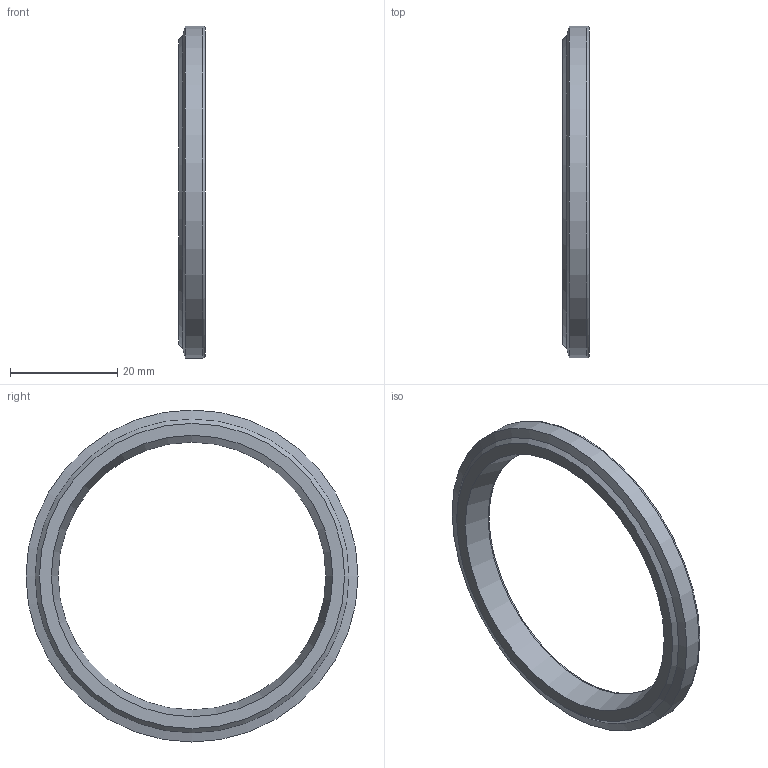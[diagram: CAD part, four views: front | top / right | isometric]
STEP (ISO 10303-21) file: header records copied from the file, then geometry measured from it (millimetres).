
FILE_DESCRIPTION(('STEP AP203'),'1');
FILE_NAME('D:/Desktop/BOSCH CAD/CBX/R133185010.step','2022-02-17T07:15:35',(' '),(' '),'Spatial InterOp 3D',' ',' ');
FILE_SCHEMA(('CONFIG_CONTROL_DESIGN'));
Length unit declared in the file: millimetre
Products named in the file (1): 1
Bounding box: 5 x 62 x 62 mm (x, y, z)
Volume: 4295.9 mm3; surface area: 3785.6 mm2
Topology: 1 solids, 1 shells, 12 faces, 20 edges, 12 vertices
Faces by surface type: cone 4, plane 4, cylinder 3, torus 1
Full cylindrical faces by diameter (mm): 50 x1, 52.5 x1, 62 x1
Entity records: 292 total; most frequent: DIRECTION 50, CARTESIAN_POINT 37, AXIS2_PLACEMENT_3D 25, EDGE_LOOP 24, ORIENTED_EDGE 24, FACE_OUTER_BOUND 16, ADVANCED_FACE 12, EDGE_CURVE 12
